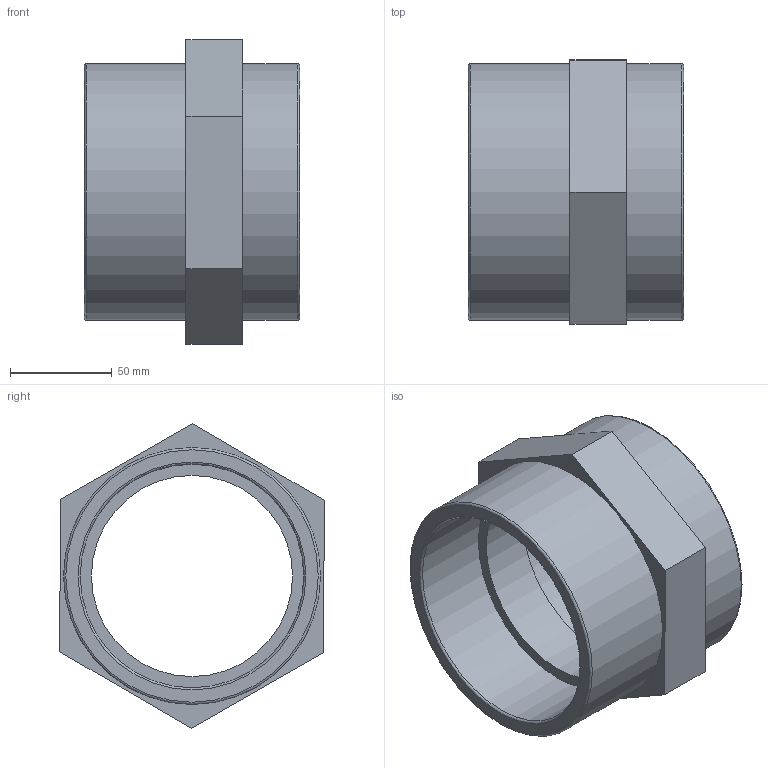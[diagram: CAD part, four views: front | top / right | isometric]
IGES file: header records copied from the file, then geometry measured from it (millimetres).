
Global section: file name: 050101040.ipt; native system: Autodesk Inventor 2015; preprocessor: unknown; author: KIM; date: 20171207.164048; units: millimetre
Bounding box: 106 x 130.21 x 150.11 mm (x, y, z)
Volume: 429352.1 mm3; surface area: 92537.2 mm2
Topology: 1 solids, 1 shells, 21 faces, 55 edges, 40 vertices
Faces by surface type: plane 12, revolution 7, cylinder 2
Full cylindrical faces by diameter (mm): 126.583 x2
